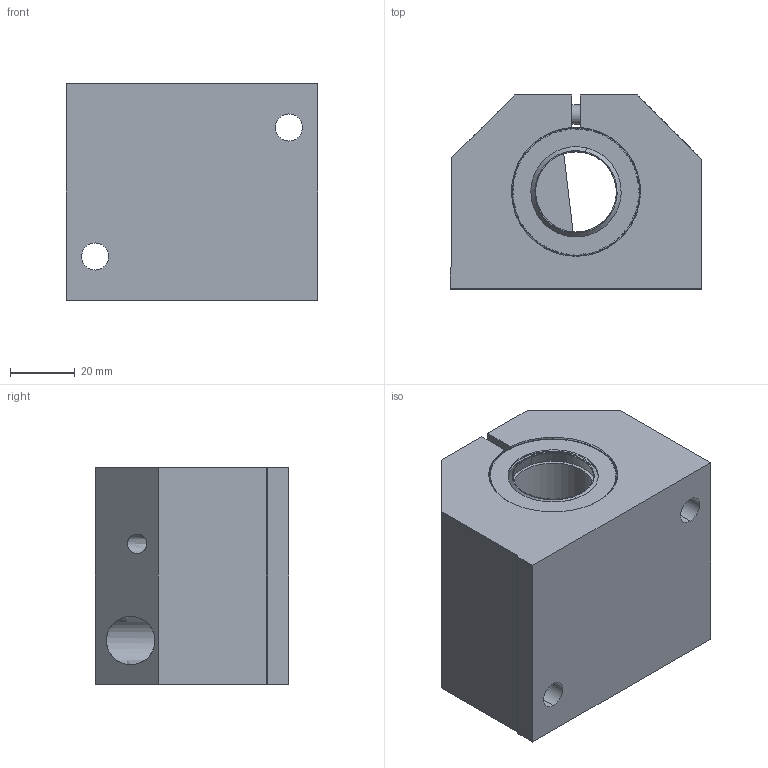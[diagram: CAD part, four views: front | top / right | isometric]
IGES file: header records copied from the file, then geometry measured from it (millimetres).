
Start section: 3D InterOp IGES (Version 21 0 1), Spatial Corp. Copyright (c) 1999-2007.
Global section: file name: SLS-25.igs; native system: Spatial Corp.; preprocessor: 3D InterOp GENERIC/IGES 3.0; author: Noname; organization: Noname; date: 20220309.161101; units: millimetre
Bounding box: 78 x 60 x 67 mm (x, y, z)
Surface area: 40071.1 mm2 (no closed solid volume)
Topology: 0 solids, 0 shells, 136 faces, 662 edges, 652 vertices
Faces by surface type: revolution 95, extrusion 41
